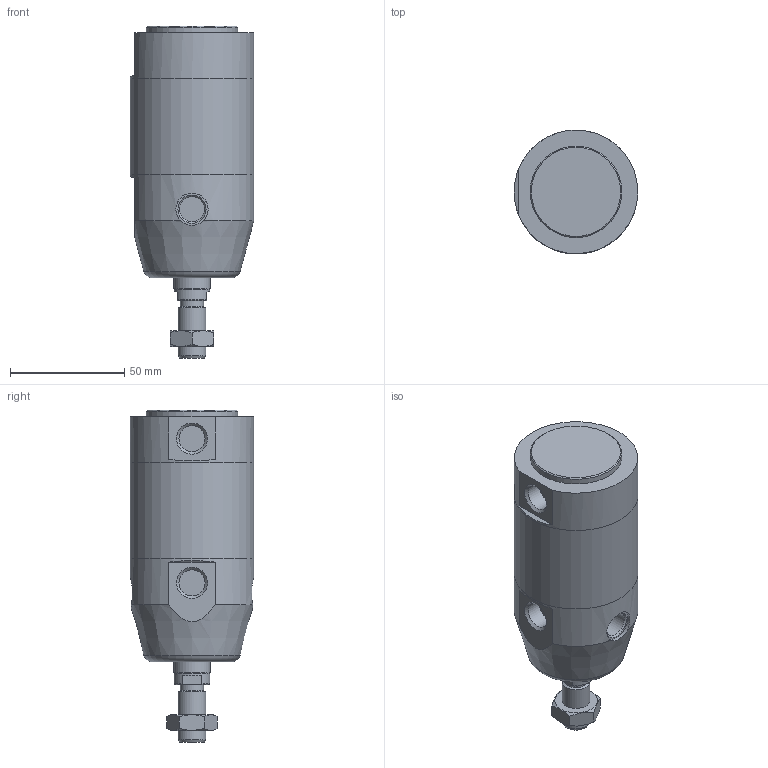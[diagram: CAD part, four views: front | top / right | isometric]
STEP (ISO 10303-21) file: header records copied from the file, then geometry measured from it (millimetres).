
FILE_DESCRIPTION(/* description */ (''),/* implementation_level */ '2;1');
FILE_NAME(/* name */ 'I:\Area Tecnica\Documenti\A-Manieri\_Inventor\12X\12X#E_###_####_#_#\12XAE_050_0000_#_#.stp',/* time_stamp */ '2015-05-08T13:40:00+02:00',/* author */ ('maniean1'),/* organization */ ('Pneumax S.p.A.'),/* preprocessor_version */ 'ST-DEVELOPER v15.2',/* originating_system */ 'Autodesk Inventor 2014',/* authorisation */ '');
FILE_SCHEMA (('AUTOMOTIVE_DESIGN { 1 0 10303 214 3 1 1 }'));
Length unit declared in the file: millimetre
Products named in the file (6): C1250_619-0000; 12X50_622; S12X50_0000; 12X_50_11; 12X50_611; 12XAE_050_0000_#_#
Bounding box: 54 x 54 x 145 mm (x, y, z)
Volume: 238699.3 mm3; surface area: 51583.6 mm2
Topology: 5 solids, 5 shells, 65 faces, 132 edges, 84 vertices
Faces by surface type: plane 33, cylinder 18, cone 13, torus 1
Full cylindrical faces by diameter (mm): 10.2 x1, 10.9 x2, 11.4 x2, 12 x2, 14 x1, 14.1 x2, 15.6 x1, 16 x1, 40 x1, 50 x2, 54 x3
Entity records: 1691 total; most frequent: CARTESIAN_POINT 368, DIRECTION 279, ORIENTED_EDGE 190, AXIS2_PLACEMENT_3D 129, EDGE_LOOP 108, EDGE_CURVE 95, VERTEX_POINT 77, ADVANCED_FACE 65
